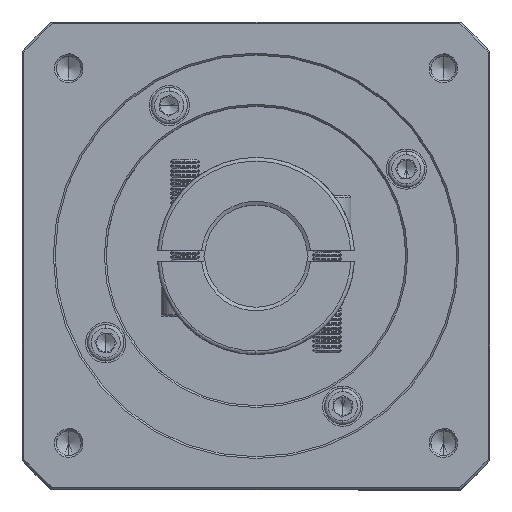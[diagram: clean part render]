
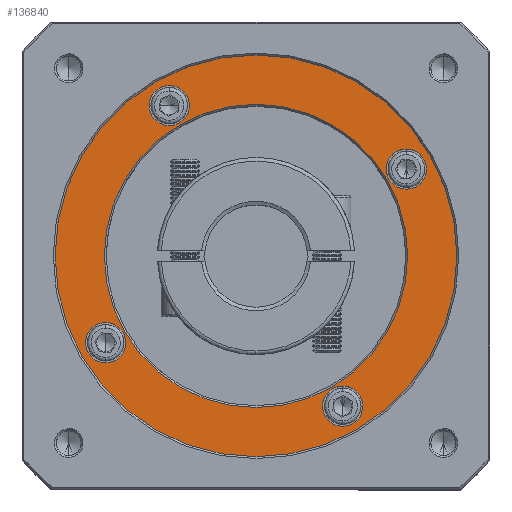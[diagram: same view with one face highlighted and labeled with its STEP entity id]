
A CAD part, top view. The second image highlights one B-rep face of the part: STEP entity #136840.
In plain terms, the highlighted planar face has unit normal (0, 0, 1).
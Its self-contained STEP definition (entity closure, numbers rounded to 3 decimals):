
#1856 = DIRECTION ( 'NONE',  ( 0., -1., 0. ) ) ;
#1871 = DIRECTION ( 'NONE',  ( 0., 0., 1. ) ) ;
#2229 = DIRECTION ( 'NONE',  ( 0., 0., -1. ) ) ;
#5576 = EDGE_CURVE ( 'NONE', #133767, #9855, #97037, .T. ) ;
#6274 = FACE_BOUND ( 'NONE', #81893, .T. ) ;
#7300 = DIRECTION ( 'NONE',  ( 0., -1., 0. ) ) ;
#7891 = FACE_BOUND ( 'NONE', #105996, .T. ) ;
#9283 = CARTESIAN_POINT ( 'NONE',  ( 20.639, 89., -11.393 ) ) ;
#9430 = EDGE_CURVE ( 'NONE', #12174, #27190, #90497, .T. ) ;
#9855 = VERTEX_POINT ( 'NONE', #99384 ) ;
#10314 = DIRECTION ( 'NONE',  ( 0., 0., -1. ) ) ;
#10753 = VERTEX_POINT ( 'NONE', #100506 ) ;
#11298 = ORIENTED_EDGE ( 'NONE', *, *, #25724, .T. ) ;
#12174 = VERTEX_POINT ( 'NONE', #64912 ) ;
#12989 = FACE_BOUND ( 'NONE', #118285, .T. ) ;
#13293 = CARTESIAN_POINT ( 'NONE',  ( 68.139, 1.228, -11.393 ) ) ;
#13436 = CIRCLE ( 'NONE', #114031, 41.5 ) ;
#14019 = VERTEX_POINT ( 'NONE', #70549 ) ;
#16150 = ORIENTED_EDGE ( 'NONE', *, *, #54598, .T. ) ;
#16629 = CARTESIAN_POINT ( 'NONE',  ( 44.389, -7.136, -11.393 ) ) ;
#25724 = EDGE_CURVE ( 'NONE', #122793, #52547, #69000, .T. ) ;
#27190 = VERTEX_POINT ( 'NONE', #13293 ) ;
#29426 = AXIS2_PLACEMENT_3D ( 'NONE', #67513, #77343, #97489 ) ;
#32551 = CIRCLE ( 'NONE', #50569, 5.5 ) ;
#33759 = CARTESIAN_POINT ( 'NONE',  ( 3.253, 24.114, -11.393 ) ) ;
#34187 = DIRECTION ( 'NONE',  ( 0., -1., 0. ) ) ;
#34860 = DIRECTION ( 'NONE',  ( 0., 0., -1. ) ) ;
#35490 = DIRECTION ( 'NONE',  ( 0., -1., 0. ) ) ;
#35599 = DIRECTION ( 'NONE',  ( 0., -1., 0. ) ) ;
#39532 = CARTESIAN_POINT ( 'NONE',  ( 44.389, 102.864, -11.393 ) ) ;
#40184 = EDGE_CURVE ( 'NONE', #58106, #77782, #83673, .T. ) ;
#41840 = ORIENTED_EDGE ( 'NONE', *, *, #69267, .T. ) ;
#42797 = CIRCLE ( 'NONE', #45886, 5.5 ) ;
#44392 = CARTESIAN_POINT ( 'NONE',  ( 85.526, 71.614, -11.393 ) ) ;
#45886 = AXIS2_PLACEMENT_3D ( 'NONE', #74389, #10314, #99681 ) ;
#49665 = EDGE_CURVE ( 'NONE', #62369, #76113, #32551, .T. ) ;
#50569 = AXIS2_PLACEMENT_3D ( 'NONE', #9283, #95348, #62234 ) ;
#52547 = VERTEX_POINT ( 'NONE', #39532 ) ;
#53016 = DIRECTION ( 'NONE',  ( 0., -1., 0. ) ) ;
#53496 = DIRECTION ( 'NONE',  ( 0., 0., -1. ) ) ;
#54598 = EDGE_CURVE ( 'NONE', #27190, #12174, #72525, .T. ) ;
#58106 = VERTEX_POINT ( 'NONE', #97751 ) ;
#59960 = EDGE_LOOP ( 'NONE', ( #41840, #81651 ) ) ;
#61474 = CARTESIAN_POINT ( 'NONE',  ( 20.639, 83.5, -11.393 ) ) ;
#62234 = DIRECTION ( 'NONE',  ( 0., -1., 0. ) ) ;
#62369 = VERTEX_POINT ( 'NONE', #69816 ) ;
#64912 = CARTESIAN_POINT ( 'NONE',  ( 68.139, 12.228, -11.393 ) ) ;
#65990 = CARTESIAN_POINT ( 'NONE',  ( 44.389, 47.864, -11.393 ) ) ;
#66548 = AXIS2_PLACEMENT_3D ( 'NONE', #131890, #133781, #90693 ) ;
#66911 = DIRECTION ( 'NONE',  ( 0., 0., 1. ) ) ;
#66960 = DIRECTION ( 'NONE',  ( 0., 0., 1. ) ) ;
#67513 = CARTESIAN_POINT ( 'NONE',  ( 85.526, 71.614, -11.393 ) ) ;
#68374 = CARTESIAN_POINT ( 'NONE',  ( 68.139, 6.728, -11.393 ) ) ;
#68709 = AXIS2_PLACEMENT_3D ( 'NONE', #33759, #75863, #119387 ) ;
#69000 = CIRCLE ( 'NONE', #108808, 55. ) ;
#69267 = EDGE_CURVE ( 'NONE', #76113, #62369, #42797, .T. ) ;
#69816 = CARTESIAN_POINT ( 'NONE',  ( 20.639, 94.5, -11.393 ) ) ;
#70549 = CARTESIAN_POINT ( 'NONE',  ( 44.389, 6.364, -11.393 ) ) ;
#70750 = EDGE_CURVE ( 'NONE', #10753, #14019, #13436, .T. ) ;
#72525 = CIRCLE ( 'NONE', #75197, 5.5 ) ;
#73604 = CARTESIAN_POINT ( 'NONE',  ( 44.389, 47.864, -11.393 ) ) ;
#73931 = ORIENTED_EDGE ( 'NONE', *, *, #123489, .T. ) ;
#74344 = ORIENTED_EDGE ( 'NONE', *, *, #5576, .T. ) ;
#74389 = CARTESIAN_POINT ( 'NONE',  ( 20.639, 89., -11.393 ) ) ;
#75197 = AXIS2_PLACEMENT_3D ( 'NONE', #68374, #121248, #101616 ) ;
#75863 = DIRECTION ( 'NONE',  ( 0., 0., -1. ) ) ;
#76113 = VERTEX_POINT ( 'NONE', #61474 ) ;
#77343 = DIRECTION ( 'NONE',  ( 0., 0., -1. ) ) ;
#77344 = CIRCLE ( 'NONE', #99874, 55. ) ;
#77782 = VERTEX_POINT ( 'NONE', #97153 ) ;
#77876 = CARTESIAN_POINT ( 'NONE',  ( 44.389, 47.864, -11.393 ) ) ;
#79637 = CIRCLE ( 'NONE', #124926, 41.5 ) ;
#80111 = AXIS2_PLACEMENT_3D ( 'NONE', #44392, #2229, #35490 ) ;
#81651 = ORIENTED_EDGE ( 'NONE', *, *, #49665, .T. ) ;
#81893 = EDGE_LOOP ( 'NONE', ( #16150, #97187 ) ) ;
#82206 = CARTESIAN_POINT ( 'NONE',  ( 68.139, 6.728, -11.393 ) ) ;
#83673 = CIRCLE ( 'NONE', #29426, 5.5 ) ;
#84631 = EDGE_CURVE ( 'NONE', #52547, #122793, #77344, .T. ) ;
#86138 = ORIENTED_EDGE ( 'NONE', *, *, #110683, .T. ) ;
#87546 = ORIENTED_EDGE ( 'NONE', *, *, #84631, .T. ) ;
#88094 = EDGE_LOOP ( 'NONE', ( #11298, #87546 ) ) ;
#88574 = EDGE_LOOP ( 'NONE', ( #86138, #74344 ) ) ;
#90497 = CIRCLE ( 'NONE', #100678, 5.5 ) ;
#90693 = DIRECTION ( 'NONE',  ( 0., -1., 0. ) ) ;
#90920 = CIRCLE ( 'NONE', #80111, 5.5 ) ;
#95348 = DIRECTION ( 'NONE',  ( 0., 0., -1. ) ) ;
#97037 = CIRCLE ( 'NONE', #68709, 5.5 ) ;
#97153 = CARTESIAN_POINT ( 'NONE',  ( 85.526, 77.114, -11.393 ) ) ;
#97187 = ORIENTED_EDGE ( 'NONE', *, *, #9430, .T. ) ;
#97489 = DIRECTION ( 'NONE',  ( 0., -1., 0. ) ) ;
#97751 = CARTESIAN_POINT ( 'NONE',  ( 85.526, 66.114, -11.393 ) ) ;
#98892 = ORIENTED_EDGE ( 'NONE', *, *, #70750, .T. ) ;
#99384 = CARTESIAN_POINT ( 'NONE',  ( 3.253, 18.614, -11.393 ) ) ;
#99681 = DIRECTION ( 'NONE',  ( 0., -1., 0. ) ) ;
#99874 = AXIS2_PLACEMENT_3D ( 'NONE', #122176, #66960, #35599 ) ;
#100506 = CARTESIAN_POINT ( 'NONE',  ( 44.389, 89.364, -11.393 ) ) ;
#100678 = AXIS2_PLACEMENT_3D ( 'NONE', #82206, #114063, #7300 ) ;
#101616 = DIRECTION ( 'NONE',  ( 0., -1., 0. ) ) ;
#105396 = ORIENTED_EDGE ( 'NONE', *, *, #40184, .T. ) ;
#105996 = EDGE_LOOP ( 'NONE', ( #124576, #98892 ) ) ;
#106775 = EDGE_CURVE ( 'NONE', #14019, #10753, #79637, .T. ) ;
#107931 = CARTESIAN_POINT ( 'NONE',  ( 3.253, 29.614, -11.393 ) ) ;
#108808 = AXIS2_PLACEMENT_3D ( 'NONE', #131061, #66911, #1856 ) ;
#110683 = EDGE_CURVE ( 'NONE', #9855, #133767, #125214, .T. ) ;
#114031 = AXIS2_PLACEMENT_3D ( 'NONE', #73604, #53496, #53016 ) ;
#114063 = DIRECTION ( 'NONE',  ( 0., 0., -1. ) ) ;
#115079 = FACE_BOUND ( 'NONE', #88574, .T. ) ;
#116187 = AXIS2_PLACEMENT_3D ( 'NONE', #65990, #1871, #34187 ) ;
#116763 = FACE_BOUND ( 'NONE', #59960, .T. ) ;
#118285 = EDGE_LOOP ( 'NONE', ( #105396, #73931 ) ) ;
#119387 = DIRECTION ( 'NONE',  ( 0., -1., 0. ) ) ;
#121248 = DIRECTION ( 'NONE',  ( 0., 0., -1. ) ) ;
#122176 = CARTESIAN_POINT ( 'NONE',  ( 44.389, 47.864, -11.393 ) ) ;
#122793 = VERTEX_POINT ( 'NONE', #16629 ) ;
#123489 = EDGE_CURVE ( 'NONE', #77782, #58106, #90920, .T. ) ;
#124576 = ORIENTED_EDGE ( 'NONE', *, *, #106775, .T. ) ;
#124926 = AXIS2_PLACEMENT_3D ( 'NONE', #77876, #34860, #129916 ) ;
#125166 = FACE_OUTER_BOUND ( 'NONE', #88094, .T. ) ;
#125214 = CIRCLE ( 'NONE', #66548, 5.5 ) ;
#129916 = DIRECTION ( 'NONE',  ( 0., -1., 0. ) ) ;
#130139 = PLANE ( 'NONE',  #116187 ) ;
#131061 = CARTESIAN_POINT ( 'NONE',  ( 44.389, 47.864, -11.393 ) ) ;
#131890 = CARTESIAN_POINT ( 'NONE',  ( 3.253, 24.114, -11.393 ) ) ;
#133767 = VERTEX_POINT ( 'NONE', #107931 ) ;
#133781 = DIRECTION ( 'NONE',  ( 0., 0., -1. ) ) ;
#136840 = ADVANCED_FACE ( 'NONE', ( #125166, #7891, #6274, #12989, #115079, #116763 ), #130139, .T. ) ;
